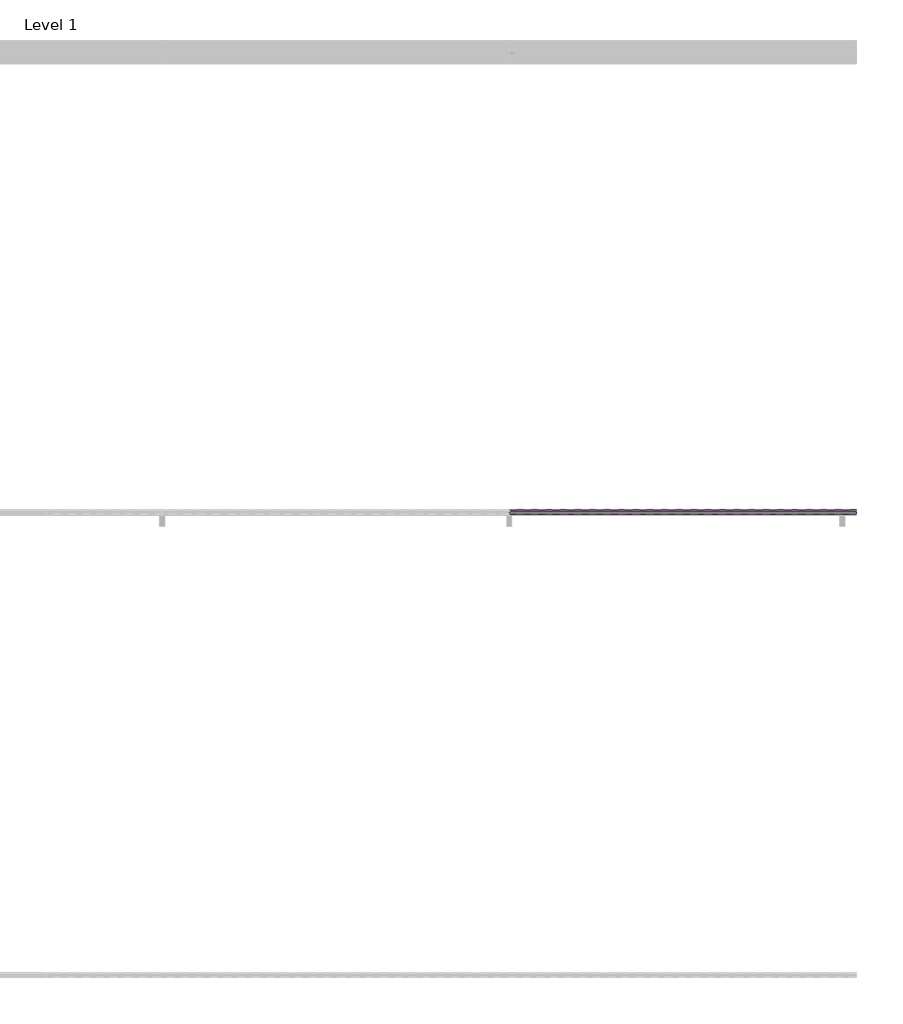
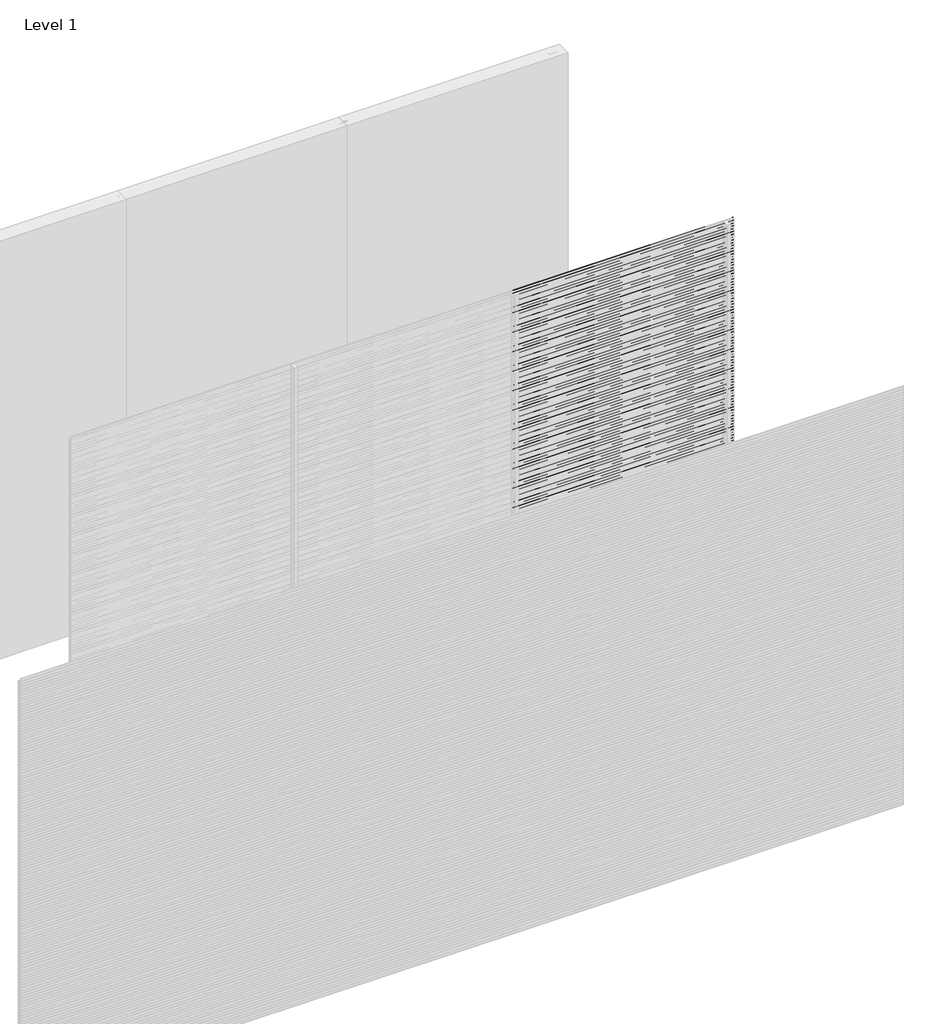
# One storey, part 23 of 31: 97 proxies.
"""IFC4 building model written with IfcOpenShell, lengths in millimetres."""

from ifc_helpers import new_model, si_unit, frame, origin, place, context, project, spatial, polyline, outline, extrude, element, save

model = new_model("IFC4")

# Units and contexts
model_context = context("Model", 3, world=origin())
ifc_project = project(units=[si_unit("LENGTHUNIT", "METRE", prefix="MILLI")], contexts=[model_context])

# Site, building, storey
site = spatial("IfcSite", under=ifc_project)
building = spatial("IfcBuilding", under=site)
storey = spatial("IfcBuildingStorey", under=building, Name="Level 1", Elevation=0.0)

# Proxies
placement = place(None, origin())
element("IfcBuildingElementProxy", 1, Name="Wall Sweeps", at=placement, inside=storey, context=model_context, shape_type="SweptSolid", body=[
    extrude(outline(polyline([(-5995.0, 3000.0), (-5995.0, 2988.942893), (-5976.0, 2973.0), (-5976.0, 2960.0), (-5997.0, 2977.6210923), (-5997.0, 3000.0), (-5995.0, 3000.0)])), frame((4500.0, 0.0, 0.0), z_axis=(1.0, 0.0, 0.0), x_axis=(0.0, 1.0, 0.0)), (0.0, 0.0, 1.0), 1500.0),
])
element("IfcBuildingElementProxy", 2, Name="Wall Sweeps", at=placement, inside=storey, context=model_context, shape_type="SweptSolid", body=[
    extrude(outline(polyline([(-5995.0, 2980.0), (-5995.0, 2968.942893), (-5976.0, 2953.0), (-5976.0, 2940.0), (-5997.0, 2957.6210923), (-5997.0, 2980.0), (-5995.0, 2980.0)])), frame((4500.0, 0.0, 0.0), z_axis=(1.0, 0.0, 0.0), x_axis=(0.0, 1.0, 0.0)), (0.0, 0.0, 1.0), 1500.0),
])
element("IfcBuildingElementProxy", 3, Name="Wall Sweeps", at=placement, inside=storey, context=model_context, shape_type="SweptSolid", body=[
    extrude(outline(polyline([(-5995.0, 2960.0), (-5995.0, 2948.942893), (-5976.0, 2933.0), (-5976.0, 2920.0), (-5997.0, 2937.6210923), (-5997.0, 2960.0), (-5995.0, 2960.0)])), frame((4500.0, 0.0, 0.0), z_axis=(1.0, 0.0, 0.0), x_axis=(0.0, 1.0, 0.0)), (0.0, 0.0, 1.0), 1500.0),
])
element("IfcBuildingElementProxy", 4, Name="Wall Sweeps", at=placement, inside=storey, context=model_context, shape_type="SweptSolid", body=[
    extrude(outline(polyline([(-5995.0, 2940.0), (-5995.0, 2928.942893), (-5976.0, 2913.0), (-5976.0, 2900.0), (-5997.0, 2917.6210923), (-5997.0, 2940.0), (-5995.0, 2940.0)])), frame((4500.0, 0.0, 0.0), z_axis=(1.0, 0.0, 0.0), x_axis=(0.0, 1.0, 0.0)), (0.0, 0.0, 1.0), 1500.0),
])
element("IfcBuildingElementProxy", 5, Name="Wall Sweeps", at=placement, inside=storey, context=model_context, shape_type="SweptSolid", body=[
    extrude(outline(polyline([(-5995.0, 2920.0), (-5995.0, 2908.942893), (-5976.0, 2893.0), (-5976.0, 2880.0), (-5997.0, 2897.6210923), (-5997.0, 2920.0), (-5995.0, 2920.0)])), frame((4500.0, 0.0, 0.0), z_axis=(1.0, 0.0, 0.0), x_axis=(0.0, 1.0, 0.0)), (0.0, 0.0, 1.0), 1500.0),
])
element("IfcBuildingElementProxy", 6, Name="Wall Sweeps", at=placement, inside=storey, context=model_context, shape_type="SweptSolid", body=[
    extrude(outline(polyline([(-5995.0, 2900.0), (-5995.0, 2888.942893), (-5976.0, 2873.0), (-5976.0, 2860.0), (-5997.0, 2877.6210923), (-5997.0, 2900.0), (-5995.0, 2900.0)])), frame((4500.0, 0.0, 0.0), z_axis=(1.0, 0.0, 0.0), x_axis=(0.0, 1.0, 0.0)), (0.0, 0.0, 1.0), 1500.0),
])
element("IfcBuildingElementProxy", 7, Name="Wall Sweeps", at=placement, inside=storey, context=model_context, shape_type="SweptSolid", body=[
    extrude(outline(polyline([(-5995.0, 2880.0), (-5995.0, 2868.942893), (-5976.0, 2853.0), (-5976.0, 2840.0), (-5997.0, 2857.6210923), (-5997.0, 2880.0), (-5995.0, 2880.0)])), frame((4500.0, 0.0, 0.0), z_axis=(1.0, 0.0, 0.0), x_axis=(0.0, 1.0, 0.0)), (0.0, 0.0, 1.0), 1500.0),
])
element("IfcBuildingElementProxy", 8, Name="Wall Sweeps", at=placement, inside=storey, context=model_context, shape_type="SweptSolid", body=[
    extrude(outline(polyline([(-5995.0, 2860.0), (-5995.0, 2848.942893), (-5976.0, 2833.0), (-5976.0, 2820.0), (-5997.0, 2837.6210923), (-5997.0, 2860.0), (-5995.0, 2860.0)])), frame((4500.0, 0.0, 0.0), z_axis=(1.0, 0.0, 0.0), x_axis=(0.0, 1.0, 0.0)), (0.0, 0.0, 1.0), 1500.0),
])
element("IfcBuildingElementProxy", 9, Name="Wall Sweeps", at=placement, inside=storey, context=model_context, shape_type="SweptSolid", body=[
    extrude(outline(polyline([(-5995.0, 2840.0), (-5995.0, 2828.942893), (-5976.0, 2813.0), (-5976.0, 2800.0), (-5997.0, 2817.6210923), (-5997.0, 2840.0), (-5995.0, 2840.0)])), frame((4500.0, 0.0, 0.0), z_axis=(1.0, 0.0, 0.0), x_axis=(0.0, 1.0, 0.0)), (0.0, 0.0, 1.0), 1500.0),
])
element("IfcBuildingElementProxy", 10, Name="Wall Sweeps", at=placement, inside=storey, context=model_context, shape_type="SweptSolid", body=[
    extrude(outline(polyline([(-5995.0, 2820.0), (-5995.0, 2808.942893), (-5976.0, 2793.0), (-5976.0, 2780.0), (-5997.0, 2797.6210923), (-5997.0, 2820.0), (-5995.0, 2820.0)])), frame((4500.0, 0.0, 0.0), z_axis=(1.0, 0.0, 0.0), x_axis=(0.0, 1.0, 0.0)), (0.0, 0.0, 1.0), 1500.0),
])
element("IfcBuildingElementProxy", 11, Name="Wall Sweeps", at=placement, inside=storey, context=model_context, shape_type="SweptSolid", body=[
    extrude(outline(polyline([(-5995.0, 2800.0), (-5995.0, 2788.942893), (-5976.0, 2773.0), (-5976.0, 2760.0), (-5997.0, 2777.6210923), (-5997.0, 2800.0), (-5995.0, 2800.0)])), frame((4500.0, 0.0, 0.0), z_axis=(1.0, 0.0, 0.0), x_axis=(0.0, 1.0, 0.0)), (0.0, 0.0, 1.0), 1500.0),
])
element("IfcBuildingElementProxy", 12, Name="Wall Sweeps", at=placement, inside=storey, context=model_context, shape_type="SweptSolid", body=[
    extrude(outline(polyline([(-5995.0, 2780.0), (-5995.0, 2768.942893), (-5976.0, 2753.0), (-5976.0, 2740.0), (-5997.0, 2757.6210923), (-5997.0, 2780.0), (-5995.0, 2780.0)])), frame((4500.0, 0.0, 0.0), z_axis=(1.0, 0.0, 0.0), x_axis=(0.0, 1.0, 0.0)), (0.0, 0.0, 1.0), 1500.0),
])
element("IfcBuildingElementProxy", 13, Name="Wall Sweeps", at=placement, inside=storey, context=model_context, shape_type="SweptSolid", body=[
    extrude(outline(polyline([(-5995.0, 2760.0), (-5995.0, 2748.942893), (-5976.0, 2733.0), (-5976.0, 2720.0), (-5997.0, 2737.6210923), (-5997.0, 2760.0), (-5995.0, 2760.0)])), frame((4500.0, 0.0, 0.0), z_axis=(1.0, 0.0, 0.0), x_axis=(0.0, 1.0, 0.0)), (0.0, 0.0, 1.0), 1500.0),
])
element("IfcBuildingElementProxy", 14, Name="Wall Sweeps", at=placement, inside=storey, context=model_context, shape_type="SweptSolid", body=[
    extrude(outline(polyline([(-5995.0, 2740.0), (-5995.0, 2728.942893), (-5976.0, 2713.0), (-5976.0, 2700.0), (-5997.0, 2717.6210923), (-5997.0, 2740.0), (-5995.0, 2740.0)])), frame((4500.0, 0.0, 0.0), z_axis=(1.0, 0.0, 0.0), x_axis=(0.0, 1.0, 0.0)), (0.0, 0.0, 1.0), 1500.0),
])
element("IfcBuildingElementProxy", 15, Name="Wall Sweeps", at=placement, inside=storey, context=model_context, shape_type="SweptSolid", body=[
    extrude(outline(polyline([(-5995.0, 2720.0), (-5995.0, 2708.942893), (-5976.0, 2693.0), (-5976.0, 2680.0), (-5997.0, 2697.6210923), (-5997.0, 2720.0), (-5995.0, 2720.0)])), frame((4500.0, 0.0, 0.0), z_axis=(1.0, 0.0, 0.0), x_axis=(0.0, 1.0, 0.0)), (0.0, 0.0, 1.0), 1500.0),
])
element("IfcBuildingElementProxy", 16, Name="Wall Sweeps", at=placement, inside=storey, context=model_context, shape_type="SweptSolid", body=[
    extrude(outline(polyline([(-5995.0, 2700.0), (-5995.0, 2688.942893), (-5976.0, 2673.0), (-5976.0, 2660.0), (-5997.0, 2677.6210923), (-5997.0, 2700.0), (-5995.0, 2700.0)])), frame((4500.0, 0.0, 0.0), z_axis=(1.0, 0.0, 0.0), x_axis=(0.0, 1.0, 0.0)), (0.0, 0.0, 1.0), 1500.0),
])
element("IfcBuildingElementProxy", 17, Name="Wall Sweeps", at=placement, inside=storey, context=model_context, shape_type="SweptSolid", body=[
    extrude(outline(polyline([(-5995.0, 2680.0), (-5995.0, 2668.942893), (-5976.0, 2653.0), (-5976.0, 2640.0), (-5997.0, 2657.6210923), (-5997.0, 2680.0), (-5995.0, 2680.0)])), frame((4500.0, 0.0, 0.0), z_axis=(1.0, 0.0, 0.0), x_axis=(0.0, 1.0, 0.0)), (0.0, 0.0, 1.0), 1500.0),
])
element("IfcBuildingElementProxy", 18, Name="Wall Sweeps", at=placement, inside=storey, context=model_context, shape_type="SweptSolid", body=[
    extrude(outline(polyline([(-5995.0, 2660.0), (-5995.0, 2648.942893), (-5976.0, 2633.0), (-5976.0, 2620.0), (-5997.0, 2637.6210923), (-5997.0, 2660.0), (-5995.0, 2660.0)])), frame((4500.0, 0.0, 0.0), z_axis=(1.0, 0.0, 0.0), x_axis=(0.0, 1.0, 0.0)), (0.0, 0.0, 1.0), 1500.0),
])
element("IfcBuildingElementProxy", 19, Name="Wall Sweeps", at=placement, inside=storey, context=model_context, shape_type="SweptSolid", body=[
    extrude(outline(polyline([(-5995.0, 2640.0), (-5995.0, 2628.942893), (-5976.0, 2613.0), (-5976.0, 2600.0), (-5997.0, 2617.6210923), (-5997.0, 2640.0), (-5995.0, 2640.0)])), frame((4500.0, 0.0, 0.0), z_axis=(1.0, 0.0, 0.0), x_axis=(0.0, 1.0, 0.0)), (0.0, 0.0, 1.0), 1500.0),
])
element("IfcBuildingElementProxy", 20, Name="Wall Sweeps", at=placement, inside=storey, context=model_context, shape_type="SweptSolid", body=[
    extrude(outline(polyline([(-5995.0, 2620.0), (-5995.0, 2608.942893), (-5976.0, 2593.0), (-5976.0, 2580.0), (-5997.0, 2597.6210923), (-5997.0, 2620.0), (-5995.0, 2620.0)])), frame((4500.0, 0.0, 0.0), z_axis=(1.0, 0.0, 0.0), x_axis=(0.0, 1.0, 0.0)), (0.0, 0.0, 1.0), 1500.0),
])
element("IfcBuildingElementProxy", 21, Name="Wall Sweeps", at=placement, inside=storey, context=model_context, shape_type="SweptSolid", body=[
    extrude(outline(polyline([(-5995.0, 2600.0), (-5995.0, 2588.942893), (-5976.0, 2573.0), (-5976.0, 2560.0), (-5997.0, 2577.6210923), (-5997.0, 2600.0), (-5995.0, 2600.0)])), frame((4500.0, 0.0, 0.0), z_axis=(1.0, 0.0, 0.0), x_axis=(0.0, 1.0, 0.0)), (0.0, 0.0, 1.0), 1500.0),
])
element("IfcBuildingElementProxy", 22, Name="Wall Sweeps", at=placement, inside=storey, context=model_context, shape_type="SweptSolid", body=[
    extrude(outline(polyline([(-5995.0, 2580.0), (-5995.0, 2568.942893), (-5976.0, 2553.0), (-5976.0, 2540.0), (-5997.0, 2557.6210923), (-5997.0, 2580.0), (-5995.0, 2580.0)])), frame((4500.0, 0.0, 0.0), z_axis=(1.0, 0.0, 0.0), x_axis=(0.0, 1.0, 0.0)), (0.0, 0.0, 1.0), 1500.0),
])
element("IfcBuildingElementProxy", 23, Name="Wall Sweeps", at=placement, inside=storey, context=model_context, shape_type="SweptSolid", body=[
    extrude(outline(polyline([(-5995.0, 2560.0), (-5995.0, 2548.942893), (-5976.0, 2533.0), (-5976.0, 2520.0), (-5997.0, 2537.6210923), (-5997.0, 2560.0), (-5995.0, 2560.0)])), frame((4500.0, 0.0, 0.0), z_axis=(1.0, 0.0, 0.0), x_axis=(0.0, 1.0, 0.0)), (0.0, 0.0, 1.0), 1500.0),
])
element("IfcBuildingElementProxy", 24, Name="Wall Sweeps", at=placement, inside=storey, context=model_context, shape_type="SweptSolid", body=[
    extrude(outline(polyline([(-5995.0, 2540.0), (-5995.0, 2528.942893), (-5976.0, 2513.0), (-5976.0, 2500.0), (-5997.0, 2517.6210923), (-5997.0, 2540.0), (-5995.0, 2540.0)])), frame((4500.0, 0.0, 0.0), z_axis=(1.0, 0.0, 0.0), x_axis=(0.0, 1.0, 0.0)), (0.0, 0.0, 1.0), 1500.0),
])
element("IfcBuildingElementProxy", 25, Name="Wall Sweeps", at=placement, inside=storey, context=model_context, shape_type="SweptSolid", body=[
    extrude(outline(polyline([(-5995.0, 2520.0), (-5995.0, 2508.942893), (-5976.0, 2493.0), (-5976.0, 2480.0), (-5997.0, 2497.6210923), (-5997.0, 2520.0), (-5995.0, 2520.0)])), frame((4500.0, 0.0, 0.0), z_axis=(1.0, 0.0, 0.0), x_axis=(0.0, 1.0, 0.0)), (0.0, 0.0, 1.0), 1500.0),
])
element("IfcBuildingElementProxy", 26, Name="Wall Sweeps", at=placement, inside=storey, context=model_context, shape_type="SweptSolid", body=[
    extrude(outline(polyline([(-5995.0, 2500.0), (-5995.0, 2488.942893), (-5976.0, 2473.0), (-5976.0, 2460.0), (-5997.0, 2477.6210923), (-5997.0, 2500.0), (-5995.0, 2500.0)])), frame((4500.0, 0.0, 0.0), z_axis=(1.0, 0.0, 0.0), x_axis=(0.0, 1.0, 0.0)), (0.0, 0.0, 1.0), 1500.0),
])
element("IfcBuildingElementProxy", 27, Name="Wall Sweeps", at=placement, inside=storey, context=model_context, shape_type="SweptSolid", body=[
    extrude(outline(polyline([(-5995.0, 2480.0), (-5995.0, 2468.942893), (-5976.0, 2453.0), (-5976.0, 2440.0), (-5997.0, 2457.6210923), (-5997.0, 2480.0), (-5995.0, 2480.0)])), frame((4500.0, 0.0, 0.0), z_axis=(1.0, 0.0, 0.0), x_axis=(0.0, 1.0, 0.0)), (0.0, 0.0, 1.0), 1500.0),
])
element("IfcBuildingElementProxy", 28, Name="Wall Sweeps", at=placement, inside=storey, context=model_context, shape_type="SweptSolid", body=[
    extrude(outline(polyline([(-5995.0, 2460.0), (-5995.0, 2448.942893), (-5976.0, 2433.0), (-5976.0, 2420.0), (-5997.0, 2437.6210923), (-5997.0, 2460.0), (-5995.0, 2460.0)])), frame((4500.0, 0.0, 0.0), z_axis=(1.0, 0.0, 0.0), x_axis=(0.0, 1.0, 0.0)), (0.0, 0.0, 1.0), 1500.0),
])
element("IfcBuildingElementProxy", 29, Name="Wall Sweeps", at=placement, inside=storey, context=model_context, shape_type="SweptSolid", body=[
    extrude(outline(polyline([(-5995.0, 2440.0), (-5995.0, 2428.942893), (-5976.0, 2413.0), (-5976.0, 2400.0), (-5997.0, 2417.6210923), (-5997.0, 2440.0), (-5995.0, 2440.0)])), frame((4500.0, 0.0, 0.0), z_axis=(1.0, 0.0, 0.0), x_axis=(0.0, 1.0, 0.0)), (0.0, 0.0, 1.0), 1500.0),
])
element("IfcBuildingElementProxy", 30, Name="Wall Sweeps", at=placement, inside=storey, context=model_context, shape_type="SweptSolid", body=[
    extrude(outline(polyline([(-5995.0, 2420.0), (-5995.0, 2408.942893), (-5976.0, 2393.0), (-5976.0, 2380.0), (-5997.0, 2397.6210923), (-5997.0, 2420.0), (-5995.0, 2420.0)])), frame((4500.0, 0.0, 0.0), z_axis=(1.0, 0.0, 0.0), x_axis=(0.0, 1.0, 0.0)), (0.0, 0.0, 1.0), 1500.0),
])
element("IfcBuildingElementProxy", 31, Name="Wall Sweeps", at=placement, inside=storey, context=model_context, shape_type="SweptSolid", body=[
    extrude(outline(polyline([(-5995.0, 2400.0), (-5995.0, 2388.942893), (-5976.0, 2373.0), (-5976.0, 2360.0), (-5997.0, 2377.6210923), (-5997.0, 2400.0), (-5995.0, 2400.0)])), frame((4500.0, 0.0, 0.0), z_axis=(1.0, 0.0, 0.0), x_axis=(0.0, 1.0, 0.0)), (0.0, 0.0, 1.0), 1500.0),
])
element("IfcBuildingElementProxy", 32, Name="Wall Sweeps", at=placement, inside=storey, context=model_context, shape_type="SweptSolid", body=[
    extrude(outline(polyline([(-5995.0, 2380.0), (-5995.0, 2368.942893), (-5976.0, 2353.0), (-5976.0, 2340.0), (-5997.0, 2357.6210923), (-5997.0, 2380.0), (-5995.0, 2380.0)])), frame((4500.0, 0.0, 0.0), z_axis=(1.0, 0.0, 0.0), x_axis=(0.0, 1.0, 0.0)), (0.0, 0.0, 1.0), 1500.0),
])
element("IfcBuildingElementProxy", 33, Name="Wall Sweeps", at=placement, inside=storey, context=model_context, shape_type="SweptSolid", body=[
    extrude(outline(polyline([(-5995.0, 2360.0), (-5995.0, 2348.942893), (-5976.0, 2333.0), (-5976.0, 2320.0), (-5997.0, 2337.6210923), (-5997.0, 2360.0), (-5995.0, 2360.0)])), frame((4500.0, 0.0, 0.0), z_axis=(1.0, 0.0, 0.0), x_axis=(0.0, 1.0, 0.0)), (0.0, 0.0, 1.0), 1500.0),
])
element("IfcBuildingElementProxy", 34, Name="Wall Sweeps", at=placement, inside=storey, context=model_context, shape_type="SweptSolid", body=[
    extrude(outline(polyline([(-5995.0, 2340.0), (-5995.0, 2328.942893), (-5976.0, 2313.0), (-5976.0, 2300.0), (-5997.0, 2317.6210923), (-5997.0, 2340.0), (-5995.0, 2340.0)])), frame((4500.0, 0.0, 0.0), z_axis=(1.0, 0.0, 0.0), x_axis=(0.0, 1.0, 0.0)), (0.0, 0.0, 1.0), 1500.0),
])
element("IfcBuildingElementProxy", 35, Name="Wall Sweeps", at=placement, inside=storey, context=model_context, shape_type="SweptSolid", body=[
    extrude(outline(polyline([(-5995.0, 2320.0), (-5995.0, 2308.942893), (-5976.0, 2293.0), (-5976.0, 2280.0), (-5997.0, 2297.6210923), (-5997.0, 2320.0), (-5995.0, 2320.0)])), frame((4500.0, 0.0, 0.0), z_axis=(1.0, 0.0, 0.0), x_axis=(0.0, 1.0, 0.0)), (0.0, 0.0, 1.0), 1500.0),
])
element("IfcBuildingElementProxy", 36, Name="Wall Sweeps", at=placement, inside=storey, context=model_context, shape_type="SweptSolid", body=[
    extrude(outline(polyline([(-5995.0, 2300.0), (-5995.0, 2288.942893), (-5976.0, 2273.0), (-5976.0, 2260.0), (-5997.0, 2277.6210923), (-5997.0, 2300.0), (-5995.0, 2300.0)])), frame((4500.0, 0.0, 0.0), z_axis=(1.0, 0.0, 0.0), x_axis=(0.0, 1.0, 0.0)), (0.0, 0.0, 1.0), 1500.0),
])
element("IfcBuildingElementProxy", 37, Name="Wall Sweeps", at=placement, inside=storey, context=model_context, shape_type="SweptSolid", body=[
    extrude(outline(polyline([(-5995.0, 2280.0), (-5995.0, 2268.942893), (-5976.0, 2253.0), (-5976.0, 2240.0), (-5997.0, 2257.6210923), (-5997.0, 2280.0), (-5995.0, 2280.0)])), frame((4500.0, 0.0, 0.0), z_axis=(1.0, 0.0, 0.0), x_axis=(0.0, 1.0, 0.0)), (0.0, 0.0, 1.0), 1500.0),
])
element("IfcBuildingElementProxy", 38, Name="Wall Sweeps", at=placement, inside=storey, context=model_context, shape_type="SweptSolid", body=[
    extrude(outline(polyline([(-5995.0, 2260.0), (-5995.0, 2248.942893), (-5976.0, 2233.0), (-5976.0, 2220.0), (-5997.0, 2237.6210923), (-5997.0, 2260.0), (-5995.0, 2260.0)])), frame((4500.0, 0.0, 0.0), z_axis=(1.0, 0.0, 0.0), x_axis=(0.0, 1.0, 0.0)), (0.0, 0.0, 1.0), 1500.0),
])
element("IfcBuildingElementProxy", 39, Name="Wall Sweeps", at=placement, inside=storey, context=model_context, shape_type="SweptSolid", body=[
    extrude(outline(polyline([(-5995.0, 2240.0), (-5995.0, 2228.942893), (-5976.0, 2213.0), (-5976.0, 2200.0), (-5997.0, 2217.6210923), (-5997.0, 2240.0), (-5995.0, 2240.0)])), frame((4500.0, 0.0, 0.0), z_axis=(1.0, 0.0, 0.0), x_axis=(0.0, 1.0, 0.0)), (0.0, 0.0, 1.0), 1500.0),
])
element("IfcBuildingElementProxy", 40, Name="Wall Sweeps", at=placement, inside=storey, context=model_context, shape_type="SweptSolid", body=[
    extrude(outline(polyline([(-5995.0, 2220.0), (-5995.0, 2208.942893), (-5976.0, 2193.0), (-5976.0, 2180.0), (-5997.0, 2197.6210923), (-5997.0, 2220.0), (-5995.0, 2220.0)])), frame((4500.0, 0.0, 0.0), z_axis=(1.0, 0.0, 0.0), x_axis=(0.0, 1.0, 0.0)), (0.0, 0.0, 1.0), 1500.0),
])
element("IfcBuildingElementProxy", 41, Name="Wall Sweeps", at=placement, inside=storey, context=model_context, shape_type="SweptSolid", body=[
    extrude(outline(polyline([(-5995.0, 2200.0), (-5995.0, 2188.942893), (-5976.0, 2173.0), (-5976.0, 2160.0), (-5997.0, 2177.6210923), (-5997.0, 2200.0), (-5995.0, 2200.0)])), frame((4500.0, 0.0, 0.0), z_axis=(1.0, 0.0, 0.0), x_axis=(0.0, 1.0, 0.0)), (0.0, 0.0, 1.0), 1500.0),
])
element("IfcBuildingElementProxy", 42, Name="Wall Sweeps", at=placement, inside=storey, context=model_context, shape_type="SweptSolid", body=[
    extrude(outline(polyline([(-5995.0, 2180.0), (-5995.0, 2168.942893), (-5976.0, 2153.0), (-5976.0, 2140.0), (-5997.0, 2157.6210923), (-5997.0, 2180.0), (-5995.0, 2180.0)])), frame((4500.0, 0.0, 0.0), z_axis=(1.0, 0.0, 0.0), x_axis=(0.0, 1.0, 0.0)), (0.0, 0.0, 1.0), 1500.0),
])
element("IfcBuildingElementProxy", 43, Name="Wall Sweeps", at=placement, inside=storey, context=model_context, shape_type="SweptSolid", body=[
    extrude(outline(polyline([(-5995.0, 2160.0), (-5995.0, 2148.942893), (-5976.0, 2133.0), (-5976.0, 2120.0), (-5997.0, 2137.6210923), (-5997.0, 2160.0), (-5995.0, 2160.0)])), frame((4500.0, 0.0, 0.0), z_axis=(1.0, 0.0, 0.0), x_axis=(0.0, 1.0, 0.0)), (0.0, 0.0, 1.0), 1500.0),
])
element("IfcBuildingElementProxy", 44, Name="Wall Sweeps", at=placement, inside=storey, context=model_context, shape_type="SweptSolid", body=[
    extrude(outline(polyline([(-5995.0, 2140.0), (-5995.0, 2128.942893), (-5976.0, 2113.0), (-5976.0, 2100.0), (-5997.0, 2117.6210923), (-5997.0, 2140.0), (-5995.0, 2140.0)])), frame((4500.0, 0.0, 0.0), z_axis=(1.0, 0.0, 0.0), x_axis=(0.0, 1.0, 0.0)), (0.0, 0.0, 1.0), 1500.0),
])
element("IfcBuildingElementProxy", 45, Name="Wall Sweeps", at=placement, inside=storey, context=model_context, shape_type="SweptSolid", body=[
    extrude(outline(polyline([(-5995.0, 2120.0), (-5995.0, 2108.942893), (-5976.0, 2093.0), (-5976.0, 2080.0), (-5997.0, 2097.6210923), (-5997.0, 2120.0), (-5995.0, 2120.0)])), frame((4500.0, 0.0, 0.0), z_axis=(1.0, 0.0, 0.0), x_axis=(0.0, 1.0, 0.0)), (0.0, 0.0, 1.0), 1500.0),
])
element("IfcBuildingElementProxy", 46, Name="Wall Sweeps", at=placement, inside=storey, context=model_context, shape_type="SweptSolid", body=[
    extrude(outline(polyline([(-5995.0, 2100.0), (-5995.0, 2088.942893), (-5976.0, 2073.0), (-5976.0, 2060.0), (-5997.0, 2077.6210923), (-5997.0, 2100.0), (-5995.0, 2100.0)])), frame((4500.0, 0.0, 0.0), z_axis=(1.0, 0.0, 0.0), x_axis=(0.0, 1.0, 0.0)), (0.0, 0.0, 1.0), 1500.0),
])
element("IfcBuildingElementProxy", 47, Name="Wall Sweeps", at=placement, inside=storey, context=model_context, shape_type="SweptSolid", body=[
    extrude(outline(polyline([(-5995.0, 2080.0), (-5995.0, 2068.942893), (-5976.0, 2053.0), (-5976.0, 2040.0), (-5997.0, 2057.6210923), (-5997.0, 2080.0), (-5995.0, 2080.0)])), frame((4500.0, 0.0, 0.0), z_axis=(1.0, 0.0, 0.0), x_axis=(0.0, 1.0, 0.0)), (0.0, 0.0, 1.0), 1500.0),
])
element("IfcBuildingElementProxy", 48, Name="Wall Sweeps", at=placement, inside=storey, context=model_context, shape_type="SweptSolid", body=[
    extrude(outline(polyline([(-5995.0, 2060.0), (-5995.0, 2048.942893), (-5976.0, 2033.0), (-5976.0, 2020.0), (-5997.0, 2037.6210923), (-5997.0, 2060.0), (-5995.0, 2060.0)])), frame((4500.0, 0.0, 0.0), z_axis=(1.0, 0.0, 0.0), x_axis=(0.0, 1.0, 0.0)), (0.0, 0.0, 1.0), 1500.0),
])
element("IfcBuildingElementProxy", 49, Name="Wall Sweeps", at=placement, inside=storey, context=model_context, shape_type="SweptSolid", body=[
    extrude(outline(polyline([(-5995.0, 2040.0), (-5995.0, 2028.942893), (-5976.0, 2013.0), (-5976.0, 2000.0), (-5997.0, 2017.6210923), (-5997.0, 2040.0), (-5995.0, 2040.0)])), frame((4500.0, 0.0, 0.0), z_axis=(1.0, 0.0, 0.0), x_axis=(0.0, 1.0, 0.0)), (0.0, 0.0, 1.0), 1500.0),
])
element("IfcBuildingElementProxy", 50, Name="Wall Sweeps", at=placement, inside=storey, context=model_context, shape_type="SweptSolid", body=[
    extrude(outline(polyline([(-5995.0, 2020.0), (-5995.0, 2008.942893), (-5976.0, 1993.0), (-5976.0, 1980.0), (-5997.0, 1997.6210923), (-5997.0, 2020.0), (-5995.0, 2020.0)])), frame((4500.0, 0.0, 0.0), z_axis=(1.0, 0.0, 0.0), x_axis=(0.0, 1.0, 0.0)), (0.0, 0.0, 1.0), 1500.0),
])
element("IfcBuildingElementProxy", 51, Name="Wall Sweeps", at=placement, inside=storey, context=model_context, shape_type="SweptSolid", body=[
    extrude(outline(polyline([(-5995.0, 2000.0), (-5995.0, 1988.942893), (-5976.0, 1973.0), (-5976.0, 1960.0), (-5997.0, 1977.6210923), (-5997.0, 2000.0), (-5995.0, 2000.0)])), frame((4500.0, 0.0, 0.0), z_axis=(1.0, 0.0, 0.0), x_axis=(0.0, 1.0, 0.0)), (0.0, 0.0, 1.0), 1500.0),
])
element("IfcBuildingElementProxy", 52, Name="Wall Sweeps", at=placement, inside=storey, context=model_context, shape_type="SweptSolid", body=[
    extrude(outline(polyline([(-5995.0, 1980.0), (-5995.0, 1968.942893), (-5976.0, 1953.0), (-5976.0, 1940.0), (-5997.0, 1957.6210923), (-5997.0, 1980.0), (-5995.0, 1980.0)])), frame((4500.0, 0.0, 0.0), z_axis=(1.0, 0.0, 0.0), x_axis=(0.0, 1.0, 0.0)), (0.0, 0.0, 1.0), 1500.0),
])
element("IfcBuildingElementProxy", 53, Name="Wall Sweeps", at=placement, inside=storey, context=model_context, shape_type="SweptSolid", body=[
    extrude(outline(polyline([(-5995.0, 1960.0), (-5995.0, 1948.942893), (-5976.0, 1933.0), (-5976.0, 1920.0), (-5997.0, 1937.6210923), (-5997.0, 1960.0), (-5995.0, 1960.0)])), frame((4500.0, 0.0, 0.0), z_axis=(1.0, 0.0, 0.0), x_axis=(0.0, 1.0, 0.0)), (0.0, 0.0, 1.0), 1500.0),
])
element("IfcBuildingElementProxy", 54, Name="Wall Sweeps", at=placement, inside=storey, context=model_context, shape_type="SweptSolid", body=[
    extrude(outline(polyline([(-5995.0, 1940.0), (-5995.0, 1928.942893), (-5976.0, 1913.0), (-5976.0, 1900.0), (-5997.0, 1917.6210923), (-5997.0, 1940.0), (-5995.0, 1940.0)])), frame((4500.0, 0.0, 0.0), z_axis=(1.0, 0.0, 0.0), x_axis=(0.0, 1.0, 0.0)), (0.0, 0.0, 1.0), 1500.0),
])
element("IfcBuildingElementProxy", 55, Name="Wall Sweeps", at=placement, inside=storey, context=model_context, shape_type="SweptSolid", body=[
    extrude(outline(polyline([(-5995.0, 1920.0), (-5995.0, 1908.942893), (-5976.0, 1893.0), (-5976.0, 1880.0), (-5997.0, 1897.6210923), (-5997.0, 1920.0), (-5995.0, 1920.0)])), frame((4500.0, 0.0, 0.0), z_axis=(1.0, 0.0, 0.0), x_axis=(0.0, 1.0, 0.0)), (0.0, 0.0, 1.0), 1500.0),
])
element("IfcBuildingElementProxy", 56, Name="Wall Sweeps", at=placement, inside=storey, context=model_context, shape_type="SweptSolid", body=[
    extrude(outline(polyline([(-5995.0, 1900.0), (-5995.0, 1888.942893), (-5976.0, 1873.0), (-5976.0, 1860.0), (-5997.0, 1877.6210923), (-5997.0, 1900.0), (-5995.0, 1900.0)])), frame((4500.0, 0.0, 0.0), z_axis=(1.0, 0.0, 0.0), x_axis=(0.0, 1.0, 0.0)), (0.0, 0.0, 1.0), 1500.0),
])
element("IfcBuildingElementProxy", 57, Name="Wall Sweeps", at=placement, inside=storey, context=model_context, shape_type="SweptSolid", body=[
    extrude(outline(polyline([(-5995.0, 1880.0), (-5995.0, 1868.942893), (-5976.0, 1853.0), (-5976.0, 1840.0), (-5997.0, 1857.6210923), (-5997.0, 1880.0), (-5995.0, 1880.0)])), frame((4500.0, 0.0, 0.0), z_axis=(1.0, 0.0, 0.0), x_axis=(0.0, 1.0, 0.0)), (0.0, 0.0, 1.0), 1500.0),
])
element("IfcBuildingElementProxy", 58, Name="Wall Sweeps", at=placement, inside=storey, context=model_context, shape_type="SweptSolid", body=[
    extrude(outline(polyline([(-5995.0, 1860.0), (-5995.0, 1848.942893), (-5976.0, 1833.0), (-5976.0, 1820.0), (-5997.0, 1837.6210923), (-5997.0, 1860.0), (-5995.0, 1860.0)])), frame((4500.0, 0.0, 0.0), z_axis=(1.0, 0.0, 0.0), x_axis=(0.0, 1.0, 0.0)), (0.0, 0.0, 1.0), 1500.0),
])
element("IfcBuildingElementProxy", 59, Name="Wall Sweeps", at=placement, inside=storey, context=model_context, shape_type="SweptSolid", body=[
    extrude(outline(polyline([(-5995.0, 1840.0), (-5995.0, 1828.942893), (-5976.0, 1813.0), (-5976.0, 1800.0), (-5997.0, 1817.6210923), (-5997.0, 1840.0), (-5995.0, 1840.0)])), frame((4500.0, 0.0, 0.0), z_axis=(1.0, 0.0, 0.0), x_axis=(0.0, 1.0, 0.0)), (0.0, 0.0, 1.0), 1500.0),
])
element("IfcBuildingElementProxy", 60, Name="Wall Sweeps", at=placement, inside=storey, context=model_context, shape_type="SweptSolid", body=[
    extrude(outline(polyline([(-5995.0, 1820.0), (-5995.0, 1808.942893), (-5976.0, 1793.0), (-5976.0, 1780.0), (-5997.0, 1797.6210923), (-5997.0, 1820.0), (-5995.0, 1820.0)])), frame((4500.0, 0.0, 0.0), z_axis=(1.0, 0.0, 0.0), x_axis=(0.0, 1.0, 0.0)), (0.0, 0.0, 1.0), 1500.0),
])
element("IfcBuildingElementProxy", 61, Name="Wall Sweeps", at=placement, inside=storey, context=model_context, shape_type="SweptSolid", body=[
    extrude(outline(polyline([(-5995.0, 1800.0), (-5995.0, 1788.942893), (-5976.0, 1773.0), (-5976.0, 1760.0), (-5997.0, 1777.6210923), (-5997.0, 1800.0), (-5995.0, 1800.0)])), frame((4500.0, 0.0, 0.0), z_axis=(1.0, 0.0, 0.0), x_axis=(0.0, 1.0, 0.0)), (0.0, 0.0, 1.0), 1500.0),
])
element("IfcBuildingElementProxy", 62, Name="Wall Sweeps", at=placement, inside=storey, context=model_context, shape_type="SweptSolid", body=[
    extrude(outline(polyline([(-5995.0, 1780.0), (-5995.0, 1768.942893), (-5976.0, 1753.0), (-5976.0, 1740.0), (-5997.0, 1757.6210923), (-5997.0, 1780.0), (-5995.0, 1780.0)])), frame((4500.0, 0.0, 0.0), z_axis=(1.0, 0.0, 0.0), x_axis=(0.0, 1.0, 0.0)), (0.0, 0.0, 1.0), 1500.0),
])
element("IfcBuildingElementProxy", 63, Name="Wall Sweeps", at=placement, inside=storey, context=model_context, shape_type="SweptSolid", body=[
    extrude(outline(polyline([(-5995.0, 1760.0), (-5995.0, 1748.942893), (-5976.0, 1733.0), (-5976.0, 1720.0), (-5997.0, 1737.6210923), (-5997.0, 1760.0), (-5995.0, 1760.0)])), frame((4500.0, 0.0, 0.0), z_axis=(1.0, 0.0, 0.0), x_axis=(0.0, 1.0, 0.0)), (0.0, 0.0, 1.0), 1500.0),
])
element("IfcBuildingElementProxy", 64, Name="Wall Sweeps", at=placement, inside=storey, context=model_context, shape_type="SweptSolid", body=[
    extrude(outline(polyline([(-5995.0, 1740.0), (-5995.0, 1728.942893), (-5976.0, 1713.0), (-5976.0, 1700.0), (-5997.0, 1717.6210923), (-5997.0, 1740.0), (-5995.0, 1740.0)])), frame((4500.0, 0.0, 0.0), z_axis=(1.0, 0.0, 0.0), x_axis=(0.0, 1.0, 0.0)), (0.0, 0.0, 1.0), 1500.0),
])
element("IfcBuildingElementProxy", 65, Name="Wall Sweeps", at=placement, inside=storey, context=model_context, shape_type="SweptSolid", body=[
    extrude(outline(polyline([(-5995.0, 1720.0), (-5995.0, 1708.942893), (-5976.0, 1693.0), (-5976.0, 1680.0), (-5997.0, 1697.6210923), (-5997.0, 1720.0), (-5995.0, 1720.0)])), frame((4500.0, 0.0, 0.0), z_axis=(1.0, 0.0, 0.0), x_axis=(0.0, 1.0, 0.0)), (0.0, 0.0, 1.0), 1500.0),
])
element("IfcBuildingElementProxy", 66, Name="Wall Sweeps", at=placement, inside=storey, context=model_context, shape_type="SweptSolid", body=[
    extrude(outline(polyline([(-5995.0, 1700.0), (-5995.0, 1688.942893), (-5976.0, 1673.0), (-5976.0, 1660.0), (-5997.0, 1677.6210923), (-5997.0, 1700.0), (-5995.0, 1700.0)])), frame((4500.0, 0.0, 0.0), z_axis=(1.0, 0.0, 0.0), x_axis=(0.0, 1.0, 0.0)), (0.0, 0.0, 1.0), 1500.0),
])
element("IfcBuildingElementProxy", 67, Name="Wall Sweeps", at=placement, inside=storey, context=model_context, shape_type="SweptSolid", body=[
    extrude(outline(polyline([(-5995.0, 1680.0), (-5995.0, 1668.942893), (-5976.0, 1653.0), (-5976.0, 1640.0), (-5997.0, 1657.6210923), (-5997.0, 1680.0), (-5995.0, 1680.0)])), frame((4500.0, 0.0, 0.0), z_axis=(1.0, 0.0, 0.0), x_axis=(0.0, 1.0, 0.0)), (0.0, 0.0, 1.0), 1500.0),
])
element("IfcBuildingElementProxy", 68, Name="Wall Sweeps", at=placement, inside=storey, context=model_context, shape_type="SweptSolid", body=[
    extrude(outline(polyline([(-5995.0, 1660.0), (-5995.0, 1648.942893), (-5976.0, 1633.0), (-5976.0, 1620.0), (-5997.0, 1637.6210923), (-5997.0, 1660.0), (-5995.0, 1660.0)])), frame((4500.0, 0.0, 0.0), z_axis=(1.0, 0.0, 0.0), x_axis=(0.0, 1.0, 0.0)), (0.0, 0.0, 1.0), 1500.0),
])
element("IfcBuildingElementProxy", 69, Name="Wall Sweeps", at=placement, inside=storey, context=model_context, shape_type="SweptSolid", body=[
    extrude(outline(polyline([(-5995.0, 1640.0), (-5995.0, 1628.942893), (-5976.0, 1613.0), (-5976.0, 1600.0), (-5997.0, 1617.6210923), (-5997.0, 1640.0), (-5995.0, 1640.0)])), frame((4500.0, 0.0, 0.0), z_axis=(1.0, 0.0, 0.0), x_axis=(0.0, 1.0, 0.0)), (0.0, 0.0, 1.0), 1500.0),
])
element("IfcBuildingElementProxy", 70, Name="Wall Sweeps", at=placement, inside=storey, context=model_context, shape_type="SweptSolid", body=[
    extrude(outline(polyline([(-5995.0, 1620.0), (-5995.0, 1608.942893), (-5976.0, 1593.0), (-5976.0, 1580.0), (-5997.0, 1597.6210923), (-5997.0, 1620.0), (-5995.0, 1620.0)])), frame((4500.0, 0.0, 0.0), z_axis=(1.0, 0.0, 0.0), x_axis=(0.0, 1.0, 0.0)), (0.0, 0.0, 1.0), 1500.0),
])
element("IfcBuildingElementProxy", 71, Name="Wall Sweeps", at=placement, inside=storey, context=model_context, shape_type="SweptSolid", body=[
    extrude(outline(polyline([(-5995.0, 1600.0), (-5995.0, 1588.942893), (-5976.0, 1573.0), (-5976.0, 1560.0), (-5997.0, 1577.6210923), (-5997.0, 1600.0), (-5995.0, 1600.0)])), frame((4500.0, 0.0, 0.0), z_axis=(1.0, 0.0, 0.0), x_axis=(0.0, 1.0, 0.0)), (0.0, 0.0, 1.0), 1500.0),
])
element("IfcBuildingElementProxy", 72, Name="Wall Sweeps", at=placement, inside=storey, context=model_context, shape_type="SweptSolid", body=[
    extrude(outline(polyline([(-5995.0, 1580.0), (-5995.0, 1568.942893), (-5976.0, 1553.0), (-5976.0, 1540.0), (-5997.0, 1557.6210923), (-5997.0, 1580.0), (-5995.0, 1580.0)])), frame((4500.0, 0.0, 0.0), z_axis=(1.0, 0.0, 0.0), x_axis=(0.0, 1.0, 0.0)), (0.0, 0.0, 1.0), 1500.0),
])
element("IfcBuildingElementProxy", 73, Name="Wall Sweeps", at=placement, inside=storey, context=model_context, shape_type="SweptSolid", body=[
    extrude(outline(polyline([(-5995.0, 1560.0), (-5995.0, 1548.942893), (-5976.0, 1533.0), (-5976.0, 1520.0), (-5997.0, 1537.6210923), (-5997.0, 1560.0), (-5995.0, 1560.0)])), frame((4500.0, 0.0, 0.0), z_axis=(1.0, 0.0, 0.0), x_axis=(0.0, 1.0, 0.0)), (0.0, 0.0, 1.0), 1500.0),
])
element("IfcBuildingElementProxy", 74, Name="Wall Sweeps", at=placement, inside=storey, context=model_context, shape_type="SweptSolid", body=[
    extrude(outline(polyline([(-5995.0, 1540.0), (-5995.0, 1528.942893), (-5976.0, 1513.0), (-5976.0, 1500.0), (-5997.0, 1517.6210923), (-5997.0, 1540.0), (-5995.0, 1540.0)])), frame((4500.0, 0.0, 0.0), z_axis=(1.0, 0.0, 0.0), x_axis=(0.0, 1.0, 0.0)), (0.0, 0.0, 1.0), 1500.0),
])
element("IfcBuildingElementProxy", 75, Name="Wall Sweeps", at=placement, inside=storey, context=model_context, shape_type="SweptSolid", body=[
    extrude(outline(polyline([(-5995.0, 1520.0), (-5995.0, 1508.942893), (-5976.0, 1493.0), (-5976.0, 1480.0), (-5997.0, 1497.6210923), (-5997.0, 1520.0), (-5995.0, 1520.0)])), frame((4500.0, 0.0, 0.0), z_axis=(1.0, 0.0, 0.0), x_axis=(0.0, 1.0, 0.0)), (0.0, 0.0, 1.0), 1500.0),
])
element("IfcBuildingElementProxy", 76, Name="Wall Sweeps", at=placement, inside=storey, context=model_context, shape_type="SweptSolid", body=[
    extrude(outline(polyline([(-5995.0, 1500.0), (-5995.0, 1488.942893), (-5976.0, 1473.0), (-5976.0, 1460.0), (-5997.0, 1477.6210923), (-5997.0, 1500.0), (-5995.0, 1500.0)])), frame((4500.0, 0.0, 0.0), z_axis=(1.0, 0.0, 0.0), x_axis=(0.0, 1.0, 0.0)), (0.0, 0.0, 1.0), 1500.0),
])
element("IfcBuildingElementProxy", 77, Name="Wall Sweeps", at=placement, inside=storey, context=model_context, shape_type="SweptSolid", body=[
    extrude(outline(polyline([(-5995.0, 1480.0), (-5995.0, 1468.942893), (-5976.0, 1453.0), (-5976.0, 1440.0), (-5997.0, 1457.6210923), (-5997.0, 1480.0), (-5995.0, 1480.0)])), frame((4500.0, 0.0, 0.0), z_axis=(1.0, 0.0, 0.0), x_axis=(0.0, 1.0, 0.0)), (0.0, 0.0, 1.0), 1500.0),
])
element("IfcBuildingElementProxy", 78, Name="Wall Sweeps", at=placement, inside=storey, context=model_context, shape_type="SweptSolid", body=[
    extrude(outline(polyline([(-5995.0, 1460.0), (-5995.0, 1448.942893), (-5976.0, 1433.0), (-5976.0, 1420.0), (-5997.0, 1437.6210923), (-5997.0, 1460.0), (-5995.0, 1460.0)])), frame((4500.0, 0.0, 0.0), z_axis=(1.0, 0.0, 0.0), x_axis=(0.0, 1.0, 0.0)), (0.0, 0.0, 1.0), 1500.0),
])
element("IfcBuildingElementProxy", 79, Name="Wall Sweeps", at=placement, inside=storey, context=model_context, shape_type="SweptSolid", body=[
    extrude(outline(polyline([(-5995.0, 1440.0), (-5995.0, 1428.942893), (-5976.0, 1413.0), (-5976.0, 1400.0), (-5997.0, 1417.6210923), (-5997.0, 1440.0), (-5995.0, 1440.0)])), frame((4500.0, 0.0, 0.0), z_axis=(1.0, 0.0, 0.0), x_axis=(0.0, 1.0, 0.0)), (0.0, 0.0, 1.0), 1500.0),
])
element("IfcBuildingElementProxy", 80, Name="Wall Sweeps", at=placement, inside=storey, context=model_context, shape_type="SweptSolid", body=[
    extrude(outline(polyline([(-5995.0, 1420.0), (-5995.0, 1408.942893), (-5976.0, 1393.0), (-5976.0, 1380.0), (-5997.0, 1397.6210923), (-5997.0, 1420.0), (-5995.0, 1420.0)])), frame((4500.0, 0.0, 0.0), z_axis=(1.0, 0.0, 0.0), x_axis=(0.0, 1.0, 0.0)), (0.0, 0.0, 1.0), 1500.0),
])
element("IfcBuildingElementProxy", 81, Name="Wall Sweeps", at=placement, inside=storey, context=model_context, shape_type="SweptSolid", body=[
    extrude(outline(polyline([(-5995.0, 1400.0), (-5995.0, 1388.942893), (-5976.0, 1373.0), (-5976.0, 1360.0), (-5997.0, 1377.6210923), (-5997.0, 1400.0), (-5995.0, 1400.0)])), frame((4500.0, 0.0, 0.0), z_axis=(1.0, 0.0, 0.0), x_axis=(0.0, 1.0, 0.0)), (0.0, 0.0, 1.0), 1500.0),
])
element("IfcBuildingElementProxy", 82, Name="Wall Sweeps", at=placement, inside=storey, context=model_context, shape_type="SweptSolid", body=[
    extrude(outline(polyline([(-5995.0, 1380.0), (-5995.0, 1368.942893), (-5976.0, 1353.0), (-5976.0, 1340.0), (-5997.0, 1357.6210923), (-5997.0, 1380.0), (-5995.0, 1380.0)])), frame((4500.0, 0.0, 0.0), z_axis=(1.0, 0.0, 0.0), x_axis=(0.0, 1.0, 0.0)), (0.0, 0.0, 1.0), 1500.0),
])
element("IfcBuildingElementProxy", 83, Name="Wall Sweeps", at=placement, inside=storey, context=model_context, shape_type="SweptSolid", body=[
    extrude(outline(polyline([(-5995.0, 1360.0), (-5995.0, 1348.942893), (-5976.0, 1333.0), (-5976.0, 1320.0), (-5997.0, 1337.6210923), (-5997.0, 1360.0), (-5995.0, 1360.0)])), frame((4500.0, 0.0, 0.0), z_axis=(1.0, 0.0, 0.0), x_axis=(0.0, 1.0, 0.0)), (0.0, 0.0, 1.0), 1500.0),
])
element("IfcBuildingElementProxy", 84, Name="Wall Sweeps", at=placement, inside=storey, context=model_context, shape_type="SweptSolid", body=[
    extrude(outline(polyline([(-5995.0, 1340.0), (-5995.0, 1328.942893), (-5976.0, 1313.0), (-5976.0, 1300.0), (-5997.0, 1317.6210923), (-5997.0, 1340.0), (-5995.0, 1340.0)])), frame((4500.0, 0.0, 0.0), z_axis=(1.0, 0.0, 0.0), x_axis=(0.0, 1.0, 0.0)), (0.0, 0.0, 1.0), 1500.0),
])
element("IfcBuildingElementProxy", 85, Name="Wall Sweeps", at=placement, inside=storey, context=model_context, shape_type="SweptSolid", body=[
    extrude(outline(polyline([(-5995.0, 1320.0), (-5995.0, 1308.942893), (-5976.0, 1293.0), (-5976.0, 1280.0), (-5997.0, 1297.6210923), (-5997.0, 1320.0), (-5995.0, 1320.0)])), frame((4500.0, 0.0, 0.0), z_axis=(1.0, 0.0, 0.0), x_axis=(0.0, 1.0, 0.0)), (0.0, 0.0, 1.0), 1500.0),
])
element("IfcBuildingElementProxy", 86, Name="Wall Sweeps", at=placement, inside=storey, context=model_context, shape_type="SweptSolid", body=[
    extrude(outline(polyline([(-5995.0, 1300.0), (-5995.0, 1288.942893), (-5976.0, 1273.0), (-5976.0, 1260.0), (-5997.0, 1277.6210923), (-5997.0, 1300.0), (-5995.0, 1300.0)])), frame((4500.0, 0.0, 0.0), z_axis=(1.0, 0.0, 0.0), x_axis=(0.0, 1.0, 0.0)), (0.0, 0.0, 1.0), 1500.0),
])
element("IfcBuildingElementProxy", 87, Name="Wall Sweeps", at=placement, inside=storey, context=model_context, shape_type="SweptSolid", body=[
    extrude(outline(polyline([(-5995.0, 1280.0), (-5995.0, 1268.942893), (-5976.0, 1253.0), (-5976.0, 1240.0), (-5997.0, 1257.6210923), (-5997.0, 1280.0), (-5995.0, 1280.0)])), frame((4500.0, 0.0, 0.0), z_axis=(1.0, 0.0, 0.0), x_axis=(0.0, 1.0, 0.0)), (0.0, 0.0, 1.0), 1500.0),
])
element("IfcBuildingElementProxy", 88, Name="Wall Sweeps", at=placement, inside=storey, context=model_context, shape_type="SweptSolid", body=[
    extrude(outline(polyline([(-5995.0, 1260.0), (-5995.0, 1248.942893), (-5976.0, 1233.0), (-5976.0, 1220.0), (-5997.0, 1237.6210923), (-5997.0, 1260.0), (-5995.0, 1260.0)])), frame((4500.0, 0.0, 0.0), z_axis=(1.0, 0.0, 0.0), x_axis=(0.0, 1.0, 0.0)), (0.0, 0.0, 1.0), 1500.0),
])
element("IfcBuildingElementProxy", 89, Name="Wall Sweeps", at=placement, inside=storey, context=model_context, shape_type="SweptSolid", body=[
    extrude(outline(polyline([(-5995.0, 1240.0), (-5995.0, 1228.942893), (-5976.0, 1213.0), (-5976.0, 1200.0), (-5997.0, 1217.6210923), (-5997.0, 1240.0), (-5995.0, 1240.0)])), frame((4500.0, 0.0, 0.0), z_axis=(1.0, 0.0, 0.0), x_axis=(0.0, 1.0, 0.0)), (0.0, 0.0, 1.0), 1500.0),
])
element("IfcBuildingElementProxy", 90, Name="Wall Sweeps", at=placement, inside=storey, context=model_context, shape_type="SweptSolid", body=[
    extrude(outline(polyline([(-5995.0, 1220.0), (-5995.0, 1208.942893), (-5976.0, 1193.0), (-5976.0, 1180.0), (-5997.0, 1197.6210923), (-5997.0, 1220.0), (-5995.0, 1220.0)])), frame((4500.0, 0.0, 0.0), z_axis=(1.0, 0.0, 0.0), x_axis=(0.0, 1.0, 0.0)), (0.0, 0.0, 1.0), 1500.0),
])
element("IfcBuildingElementProxy", 91, Name="Wall Sweeps", at=placement, inside=storey, context=model_context, shape_type="SweptSolid", body=[
    extrude(outline(polyline([(-5995.0, 1200.0), (-5995.0, 1188.942893), (-5976.0, 1173.0), (-5976.0, 1160.0), (-5997.0, 1177.6210923), (-5997.0, 1200.0), (-5995.0, 1200.0)])), frame((4500.0, 0.0, 0.0), z_axis=(1.0, 0.0, 0.0), x_axis=(0.0, 1.0, 0.0)), (0.0, 0.0, 1.0), 1500.0),
])
element("IfcBuildingElementProxy", 92, Name="Wall Sweeps", at=placement, inside=storey, context=model_context, shape_type="SweptSolid", body=[
    extrude(outline(polyline([(-5995.0, 1180.0), (-5995.0, 1168.942893), (-5976.0, 1153.0), (-5976.0, 1140.0), (-5997.0, 1157.6210923), (-5997.0, 1180.0), (-5995.0, 1180.0)])), frame((4500.0, 0.0, 0.0), z_axis=(1.0, 0.0, 0.0), x_axis=(0.0, 1.0, 0.0)), (0.0, 0.0, 1.0), 1500.0),
])
element("IfcBuildingElementProxy", 93, Name="Wall Sweeps", at=placement, inside=storey, context=model_context, shape_type="SweptSolid", body=[
    extrude(outline(polyline([(-5995.0, 1160.0), (-5995.0, 1148.942893), (-5976.0, 1133.0), (-5976.0, 1120.0), (-5997.0, 1137.6210923), (-5997.0, 1160.0), (-5995.0, 1160.0)])), frame((4500.0, 0.0, 0.0), z_axis=(1.0, 0.0, 0.0), x_axis=(0.0, 1.0, 0.0)), (0.0, 0.0, 1.0), 1500.0),
])
element("IfcBuildingElementProxy", 94, Name="Wall Sweeps", at=placement, inside=storey, context=model_context, shape_type="SweptSolid", body=[
    extrude(outline(polyline([(-5995.0, 1140.0), (-5995.0, 1128.942893), (-5976.0, 1113.0), (-5976.0, 1100.0), (-5997.0, 1117.6210923), (-5997.0, 1140.0), (-5995.0, 1140.0)])), frame((4500.0, 0.0, 0.0), z_axis=(1.0, 0.0, 0.0), x_axis=(0.0, 1.0, 0.0)), (0.0, 0.0, 1.0), 1500.0),
])
element("IfcBuildingElementProxy", 95, Name="Wall Sweeps", at=placement, inside=storey, context=model_context, shape_type="SweptSolid", body=[
    extrude(outline(polyline([(-5995.0, 1120.0), (-5995.0, 1108.942893), (-5976.0, 1093.0), (-5976.0, 1080.0), (-5997.0, 1097.6210923), (-5997.0, 1120.0), (-5995.0, 1120.0)])), frame((4500.0, 0.0, 0.0), z_axis=(1.0, 0.0, 0.0), x_axis=(0.0, 1.0, 0.0)), (0.0, 0.0, 1.0), 1500.0),
])
element("IfcBuildingElementProxy", 96, Name="Wall Sweeps", at=placement, inside=storey, context=model_context, shape_type="SweptSolid", body=[
    extrude(outline(polyline([(-5995.0, 1100.0), (-5995.0, 1088.942893), (-5976.0, 1073.0), (-5976.0, 1060.0), (-5997.0, 1077.6210923), (-5997.0, 1100.0), (-5995.0, 1100.0)])), frame((4500.0, 0.0, 0.0), z_axis=(1.0, 0.0, 0.0), x_axis=(0.0, 1.0, 0.0)), (0.0, 0.0, 1.0), 1500.0),
])
element("IfcBuildingElementProxy", 97, Name="Wall Sweeps", at=placement, inside=storey, context=model_context, shape_type="SweptSolid", body=[
    extrude(outline(polyline([(-5995.0, 1080.0), (-5995.0, 1068.942893), (-5976.0, 1053.0), (-5976.0, 1040.0), (-5997.0, 1057.6210923), (-5997.0, 1080.0), (-5995.0, 1080.0)])), frame((4500.0, 0.0, 0.0), z_axis=(1.0, 0.0, 0.0), x_axis=(0.0, 1.0, 0.0)), (0.0, 0.0, 1.0), 1500.0),
])

save(model, "model.ifc")
